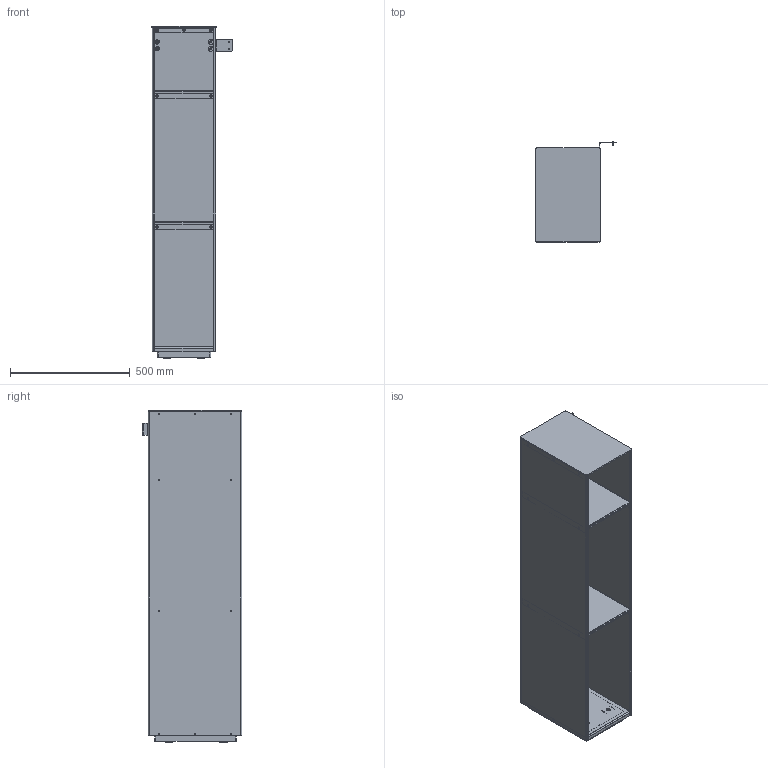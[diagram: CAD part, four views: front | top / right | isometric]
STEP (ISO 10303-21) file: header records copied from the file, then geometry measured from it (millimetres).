
FILE_DESCRIPTION(/* description */ ('Unknown'),/* implementation_level */ '2;1');
FILE_NAME(/* name */ 'DSN1135244_0_asm',/* time_stamp */ '2026-03-24T12:51:43+01:00',/* author */ ('Unknown'),/* organization */ ('Unknown'),/* preprocessor_version */ 'ST-DEVELOPER v20',/* originating_system */ 'Solid Edge',/* authorisation */ 'Unknown');
FILE_SCHEMA (('AUTOMOTIVE_DESIGN {1 0 10303 214 3 1 1}'));
Length unit declared in the file: millimetre
Products named in the file (37): DSN1135244; 803551 Justerbar fot; 803263 Bult; 803262 Pinnskruv; 803264 Plasbricka; 803261 Bricka; 803264 Plasbricka_oa_0; 416182 Kupolmutter M5 Svart; 416149 Svartoxiderad bricka; DSN1135247; 416179 Presskruv M5x10; DSN1131299; DSN1135248; DSN1131301; 016521 Mutter M6M M5; DSN1135300; DSN1135301; 416123 Presskruv CH M5x15; DSN1135249; DSN1131300; DSN1135246; DSN1131298; DSN1135261; DSN1102387; DSN1135246_718_1 175_Protrusion 1_oa_1; DSN1135245; 416062 Blindnitmutter EBPH M8; 298578 Fotinfästning Vedfack Ci51; DSN1131297; DSN1135245_2 684_1 931_Fillet 3_oa_2; DSN1135245_2 684_1 931_Fillet 3_oa_3; DSN1135273; DSN1135245_2 684_1 931_Fillet 3_oa_4; 003613 Täckpropp Svart; DSN1019091; 016002 Nitbricka Ø5xØ22x1; 803343 Plastplugg rund svart
Assembly tree (135 placements, depth 3):
  DSN1135244
    803551 Justerbar fot  x4
      803263 Bult
      803262 Pinnskruv
      803264 Plasbricka
      803261 Bricka
      803264 Plasbricka_oa_0
    416182 Kupolmutter M5 Svart  x23
    416149 Svartoxiderad bricka  x30
    DSN1135247  x2
      416179 Presskruv M5x10
      DSN1131299
    DSN1135248  x2
      DSN1131301
    016521 Mutter M6M M5  x9
    DSN1135300
      016521 Mutter M6M M5  x2
      DSN1135301
      416123 Presskruv CH M5x15  x2
    DSN1135249
      416179 Presskruv M5x10  x10
      DSN1131300
    DSN1135246
      DSN1131298
      DSN1135261
      DSN1102387  x2
      DSN1135246_718_1 175_Protrusion 1_oa_1
    DSN1135245
      416062 Blindnitmutter EBPH M8  x4
      298578 Fotinfästning Vedfack Ci51  x4
      DSN1131297
      DSN1135245_2 684_1 931_Fillet 3_oa_2
      DSN1135245_2 684_1 931_Fillet 3_oa_3
      DSN1135273
      DSN1135245_2 684_1 931_Fillet 3_oa_4
    003613 Täckpropp Svart  x4
    DSN1019091  x2
    016002 Nitbricka Ø5xØ22x1  x2
    803343 Plastplugg rund svart  x2
Bounding box: 334.12 x 417 x 1384.96 mm (x, y, z)
Volume: 4586254.2 mm3; surface area: 4133465.5 mm2
Topology: 178 solids, 178 shells, 4689 faces, 12186 edges, 7988 vertices
Faces by surface type: plane 2675, cylinder 1497, cone 404, torus 90, sphere 23
Full cylindrical faces by diameter (mm): 3.5 x4, 3.6 x4, 3.614 x11, 3.7 x4, 3.8 x4, 4.134 x46, 4.2 x4, 5 x68, 5.18 x64, 6 x10, 6.5 x32, 6.8 x4, 7.125 x23, 7.2 x36, 8 x8, 8.4 x2, 8.5 x4, 9.5 x4, 10.8 x4, 10.95 x4, 14.5 x4, 16.2 x4, 16.75 x4, 18 x2, 22 x2, 30 x8
Entity records: 27614 total; most frequent: DIRECTION 4712, CARTESIAN_POINT 4556, ORIENTED_EDGE 4018, EDGE_CURVE 2009, AXIS2_PLACEMENT_3D 1717, VERTEX_POINT 1405, LINE 1278, VECTOR 1278
